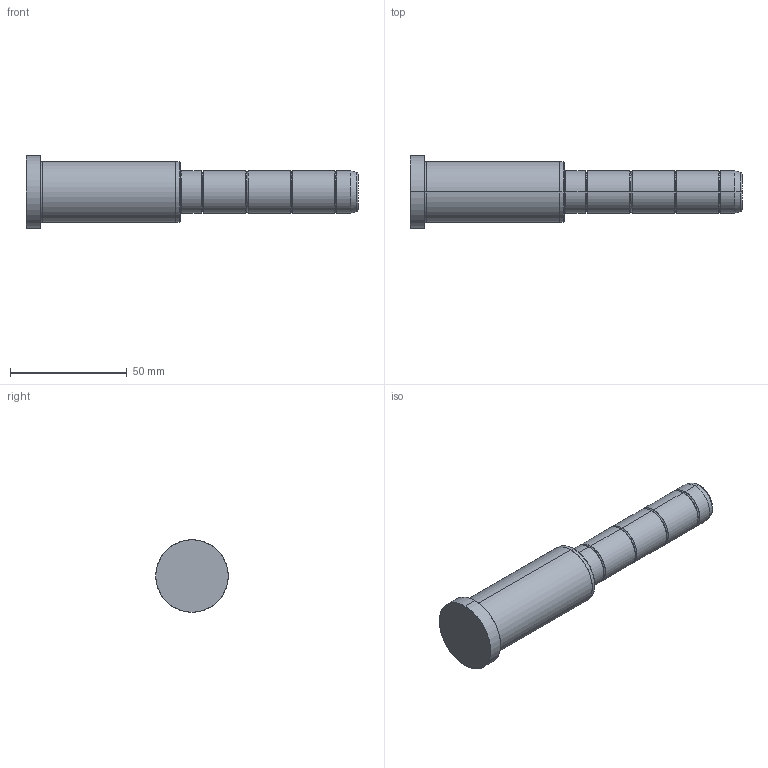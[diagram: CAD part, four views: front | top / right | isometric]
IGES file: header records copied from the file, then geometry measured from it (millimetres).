
Start section: SolidWorks IGES file using analytic representation for surfaces
Global section: file name: C:\Documents and Settings\kalite-mail\Desktop\IGS\D02\18\D02 - 18x66x76.IGS; native system: SolidWorks 2008; preprocessor: SolidWorks 2008; author: kalite-mail; date: 080616.153815; units: millimetre
Bounding box: 142 x 31 x 31 mm (x, y, z)
Surface area: 11320.8 mm2 (no closed solid volume)
Topology: 0 solids, 0 shells, 48 faces, 552 edges, 552 vertices
Faces by surface type: bspline 26, revolution 22
